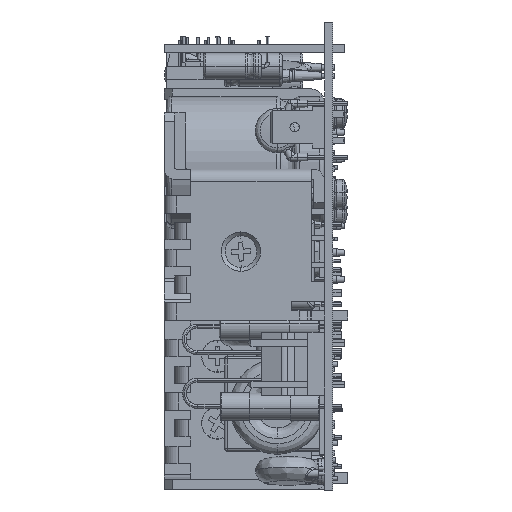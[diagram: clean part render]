
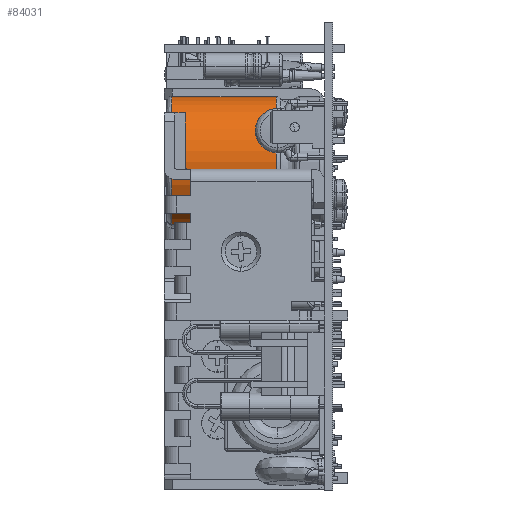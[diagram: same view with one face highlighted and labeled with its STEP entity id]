
A CAD part, left-side view. The second image highlights one B-rep face of the part: STEP entity #84031.
In plain terms, the highlighted cylindrical face has radius 12.5 mm (diameter 25 mm), a partial arc.
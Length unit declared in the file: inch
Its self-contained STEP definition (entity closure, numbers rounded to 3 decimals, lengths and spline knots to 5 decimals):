
#568 = CARTESIAN_POINT ( 'NONE',  ( 0., 0.36171, -0.49213 ) ) ;
#4041 = LINE ( 'NONE', #85567, #112222 ) ;
#6029 = VECTOR ( 'NONE', #80736, 39.37008 ) ;
#9441 = LINE ( 'NONE', #15629, #6029 ) ;
#14020 = ORIENTED_EDGE ( 'NONE', *, *, #132696, .F. ) ;
#15270 = VERTEX_POINT ( 'NONE', #136474 ) ;
#15629 = CARTESIAN_POINT ( 'NONE',  ( 0., 0., 0.49213 ) ) ;
#16629 = CIRCLE ( 'NONE', #35166, 0.49213 ) ;
#31137 = AXIS2_PLACEMENT_3D ( 'NONE', #117304, #63887, #42534 ) ;
#35166 = AXIS2_PLACEMENT_3D ( 'NONE', #121042, #56832, #131705 ) ;
#36856 = DIRECTION ( 'NONE',  ( 0., -1., 0. ) ) ;
#42281 = CYLINDRICAL_SURFACE ( 'NONE', #31137, 0.49213 ) ;
#42534 = DIRECTION ( 'NONE',  ( 0., 0., -1. ) ) ;
#49552 = VERTEX_POINT ( 'NONE', #129774 ) ;
#56832 = DIRECTION ( 'NONE',  ( 0., 1., 0. ) ) ;
#63887 = DIRECTION ( 'NONE',  ( 0., -1., 0. ) ) ;
#65709 = AXIS2_PLACEMENT_3D ( 'NONE', #101505, #36856, #112159 ) ;
#67782 = CARTESIAN_POINT ( 'NONE',  ( 0., 0.36171, 0.49213 ) ) ;
#80476 = VERTEX_POINT ( 'NONE', #568 ) ;
#80736 = DIRECTION ( 'NONE',  ( 0., -1., 0. ) ) ;
#83043 = ORIENTED_EDGE ( 'NONE', *, *, #97287, .T. ) ;
#84031 = ADVANCED_FACE ( 'NONE', ( #91245 ), #42281, .T. ) ;
#85567 = CARTESIAN_POINT ( 'NONE',  ( 0., 0., -0.49213 ) ) ;
#85945 = CIRCLE ( 'NONE', #65709, 0.49213 ) ;
#91245 = FACE_OUTER_BOUND ( 'NONE', #98227, .T. ) ;
#96288 = DIRECTION ( 'NONE',  ( 0., -1., 0. ) ) ;
#97287 = EDGE_CURVE ( 'NONE', #80476, #136040, #16629, .T. ) ;
#98227 = EDGE_LOOP ( 'NONE', ( #14020, #98594, #102965, #83043 ) ) ;
#98594 = ORIENTED_EDGE ( 'NONE', *, *, #100339, .T. ) ;
#100339 = EDGE_CURVE ( 'NONE', #49552, #15270, #85945, .T. ) ;
#101505 = CARTESIAN_POINT ( 'NONE',  ( 0., 1.14173, 0. ) ) ;
#102965 = ORIENTED_EDGE ( 'NONE', *, *, #108514, .T. ) ;
#108514 = EDGE_CURVE ( 'NONE', #15270, #80476, #4041, .T. ) ;
#112159 = DIRECTION ( 'NONE',  ( 0., 0., -1. ) ) ;
#112222 = VECTOR ( 'NONE', #96288, 39.37008 ) ;
#117304 = CARTESIAN_POINT ( 'NONE',  ( 0., 0., 0. ) ) ;
#121042 = CARTESIAN_POINT ( 'NONE',  ( 0., 0.36171, 0. ) ) ;
#129774 = CARTESIAN_POINT ( 'NONE',  ( 0., 1.14173, 0.49213 ) ) ;
#131705 = DIRECTION ( 'NONE',  ( 0., 0., -1. ) ) ;
#132696 = EDGE_CURVE ( 'NONE', #49552, #136040, #9441, .T. ) ;
#136040 = VERTEX_POINT ( 'NONE', #67782 ) ;
#136474 = CARTESIAN_POINT ( 'NONE',  ( 0., 1.14173, -0.49213 ) ) ;
